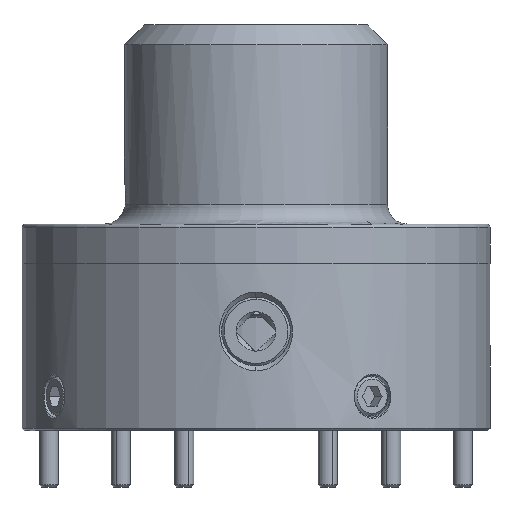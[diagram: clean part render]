
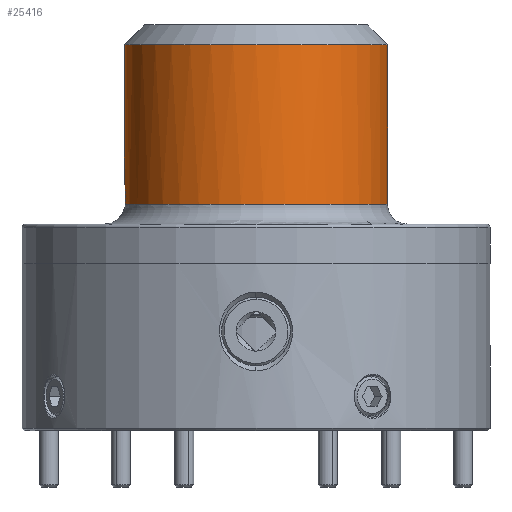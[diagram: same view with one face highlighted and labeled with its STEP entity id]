
A CAD part, left-side view. The second image highlights one B-rep face of the part: STEP entity #25416.
In plain terms, the highlighted cylindrical face has radius 42.469 mm (diameter 84.938 mm), a partial arc.
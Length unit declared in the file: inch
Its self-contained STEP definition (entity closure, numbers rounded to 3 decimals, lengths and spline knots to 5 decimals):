
#1867 = EDGE_LOOP ( 'NONE', ( #2475, #2476, #2477, #2478, #2479 ) ) ;
#2475 = ORIENTED_EDGE ( 'NONE', *, *, #3631, .F. ) ;
#2476 = ORIENTED_EDGE ( 'NONE', *, *, #3755, .T. ) ;
#2477 = ORIENTED_EDGE ( 'NONE', *, *, #3634, .T. ) ;
#2478 = ORIENTED_EDGE ( 'NONE', *, *, #3638, .F. ) ;
#2479 = ORIENTED_EDGE ( 'NONE', *, *, #3642, .F. ) ;
#3631 = EDGE_CURVE ( 'NONE', #4259, #4258, #7430, .T. ) ;
#3634 = EDGE_CURVE ( 'NONE', #4269, #4268, #7431, .T. ) ;
#3638 = EDGE_CURVE ( 'NONE', #4277, #4268, #8040, .T. ) ;
#3642 = EDGE_CURVE ( 'NONE', #4258, #4277, #7443, .T. ) ;
#3755 = EDGE_CURVE ( 'NONE', #4259, #4269, #8914, .T. ) ;
#4258 = VERTEX_POINT ( 'NONE', #10686 ) ;
#4259 = VERTEX_POINT ( 'NONE', #10687 ) ;
#4268 = VERTEX_POINT ( 'NONE', #10696 ) ;
#4269 = VERTEX_POINT ( 'NONE', #10697 ) ;
#4277 = VERTEX_POINT ( 'NONE', #10705 ) ;
#6055 = AXIS2_PLACEMENT_3D ( 'NONE', #8640, #8641, #8642 ) ;
#6141 = AXIS2_PLACEMENT_3D ( 'NONE', #9548, #9549, #9550 ) ;
#7430 = LINE ( 'NONE', #8546, #7434 ) ;
#7431 = LINE ( 'NONE', #8554, #7436 ) ;
#7434 = VECTOR ( 'NONE', #8555, 39.37008 ) ;
#7436 = VECTOR ( 'NONE', #8586, 39.37008 ) ;
#7443 = CIRCLE ( 'NONE', #6055, 1.672 ) ;
#8040 = B_SPLINE_CURVE_WITH_KNOTS ( 'NONE', 3,
 ( #8594, #8596, #8608, #8609, #8610, #8611, #8612, #8613, #8614, #8615, #8616, #8617, #8618, #8619, #8620, #8621, #8622, #8623, #8624, #8625, #8626, #8627, #8628, #8629, #8630 ),
 .UNSPECIFIED., .F., .F.,
 ( 4, 2, 2, 1, 2, 2, 2, 2, 2, 2, 2, 2, 4 ),
 ( 0., 0.00131, 0.00197, 0.00263, 0.00328, 0.00394, 0.00526, 0.00657, 0.00723, 0.00788, 0.0092, 0.00985, 0.01051 ),
 .UNSPECIFIED. ) ;
#8546 = CARTESIAN_POINT ( 'NONE',  ( 0., -1.672, 2.033 ) ) ;
#8554 = CARTESIAN_POINT ( 'NONE',  ( 0., 1.672, 2.033 ) ) ;
#8555 = DIRECTION ( 'NONE',  ( 0., 0., -1. ) ) ;
#8586 = DIRECTION ( 'NONE',  ( 0., 0., -1. ) ) ;
#8594 = CARTESIAN_POINT ( 'NONE',  ( -0.18044, 1.66223, 2.877 ) ) ;
#8596 = CARTESIAN_POINT ( 'NONE',  ( -0.18845, 1.66137, 2.89253 ) ) ;
#8608 = CARTESIAN_POINT ( 'NONE',  ( -0.19431, 1.66068, 2.90874 ) ) ;
#8609 = CARTESIAN_POINT ( 'NONE',  ( -0.19998, 1.66, 2.93407 ) ) ;
#8610 = CARTESIAN_POINT ( 'NONE',  ( -0.20135, 1.65983, 2.94275 ) ) ;
#8611 = CARTESIAN_POINT ( 'NONE',  ( -0.20294, 1.65964, 2.96004 ) ) ;
#8612 = CARTESIAN_POINT ( 'NONE',  ( -0.20342, 1.65958, 2.9773 ) ) ;
#8613 = CARTESIAN_POINT ( 'NONE',  ( -0.2017, 1.65979, 2.9945 ) ) ;
#8614 = CARTESIAN_POINT ( 'NONE',  ( -0.19887, 1.66013, 3.01167 ) ) ;
#8615 = CARTESIAN_POINT ( 'NONE',  ( -0.19688, 1.66037, 3.0202 ) ) ;
#8616 = CARTESIAN_POINT ( 'NONE',  ( -0.18942, 1.66124, 3.04502 ) ) ;
#8617 = CARTESIAN_POINT ( 'NONE',  ( -0.18236, 1.66205, 3.06086 ) ) ;
#8618 = CARTESIAN_POINT ( 'NONE',  ( -0.16422, 1.66394, 3.09059 ) ) ;
#8619 = CARTESIAN_POINT ( 'NONE',  ( -0.15345, 1.66499, 3.10402 ) ) ;
#8620 = CARTESIAN_POINT ( 'NONE',  ( -0.13477, 1.66657, 3.12205 ) ) ;
#8621 = CARTESIAN_POINT ( 'NONE',  ( -0.12808, 1.6671, 3.12773 ) ) ;
#8622 = CARTESIAN_POINT ( 'NONE',  ( -0.1142, 1.66811, 3.13806 ) ) ;
#8623 = CARTESIAN_POINT ( 'NONE',  ( -0.10697, 1.66859, 3.14274 ) ) ;
#8624 = CARTESIAN_POINT ( 'NONE',  ( -0.08445, 1.66993, 3.1554 ) ) ;
#8625 = CARTESIAN_POINT ( 'NONE',  ( -0.06809, 1.6707, 3.16202 ) ) ;
#8626 = CARTESIAN_POINT ( 'NONE',  ( -0.04304, 1.67147, 3.16857 ) ) ;
#8627 = CARTESIAN_POINT ( 'NONE',  ( -0.03458, 1.67166, 3.17022 ) ) ;
#8628 = CARTESIAN_POINT ( 'NONE',  ( -0.01744, 1.67193, 3.17243 ) ) ;
#8629 = CARTESIAN_POINT ( 'NONE',  ( -0.00871, 1.672, 3.173 ) ) ;
#8630 = CARTESIAN_POINT ( 'NONE',  ( 0., 1.672, 3.173 ) ) ;
#8640 = CARTESIAN_POINT ( 'NONE',  ( 0., 0., 2.877 ) ) ;
#8641 = DIRECTION ( 'NONE',  ( 0., 0., -1. ) ) ;
#8642 = DIRECTION ( 'NONE',  ( 0., 1., 0. ) ) ;
#8914 = CIRCLE ( 'NONE', #6141, 1.672 ) ;
#9548 = CARTESIAN_POINT ( 'NONE',  ( 0., 0., 4.908 ) ) ;
#9549 = DIRECTION ( 'NONE',  ( 0., 0., -1. ) ) ;
#9550 = DIRECTION ( 'NONE',  ( 0., 1., 0. ) ) ;
#10686 = CARTESIAN_POINT ( 'NONE',  ( 0., -1.672, 2.877 ) ) ;
#10687 = CARTESIAN_POINT ( 'NONE',  ( 0., -1.672, 4.908 ) ) ;
#10696 = CARTESIAN_POINT ( 'NONE',  ( 0., 1.672, 3.173 ) ) ;
#10697 = CARTESIAN_POINT ( 'NONE',  ( 0., 1.672, 4.908 ) ) ;
#10705 = CARTESIAN_POINT ( 'NONE',  ( -0.18044, 1.66223, 2.877 ) ) ;
#18131 = AXIS2_PLACEMENT_3D ( 'NONE', #19366, #19367, #19376 ) ;
#19366 = CARTESIAN_POINT ( 'NONE',  ( 0., 0., 2.033 ) ) ;
#19367 = DIRECTION ( 'NONE',  ( 0., 0., -1. ) ) ;
#19376 = DIRECTION ( 'NONE',  ( 0., 1., 0. ) ) ;
#20361 = FACE_OUTER_BOUND ( 'NONE', #1867, .T. ) ;
#20370 = CYLINDRICAL_SURFACE ( 'NONE', #18131, 1.672 ) ;
#25416 = ADVANCED_FACE ( 'NONE', ( #20361 ), #20370, .T. ) ;
